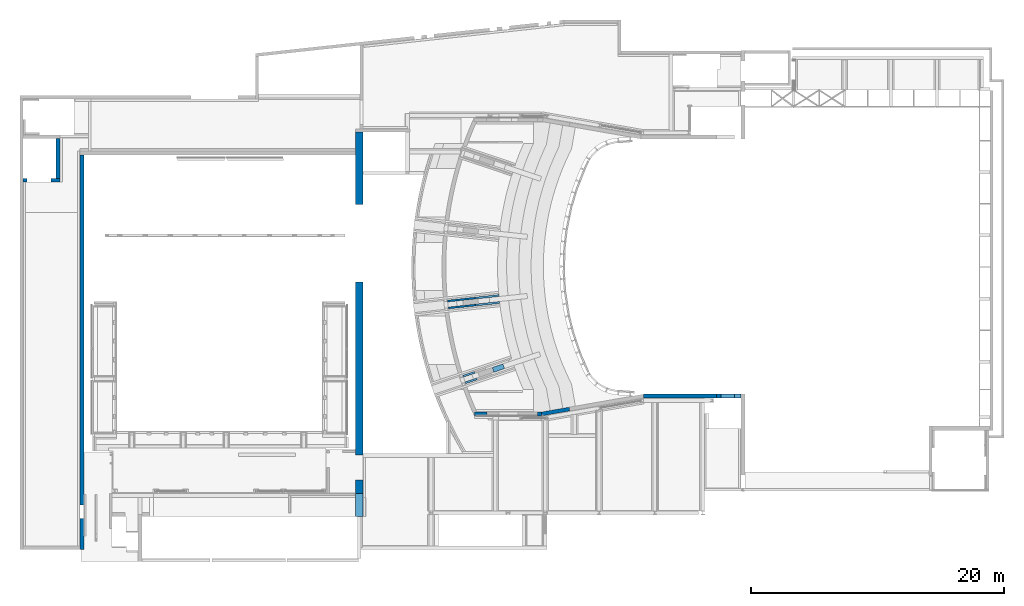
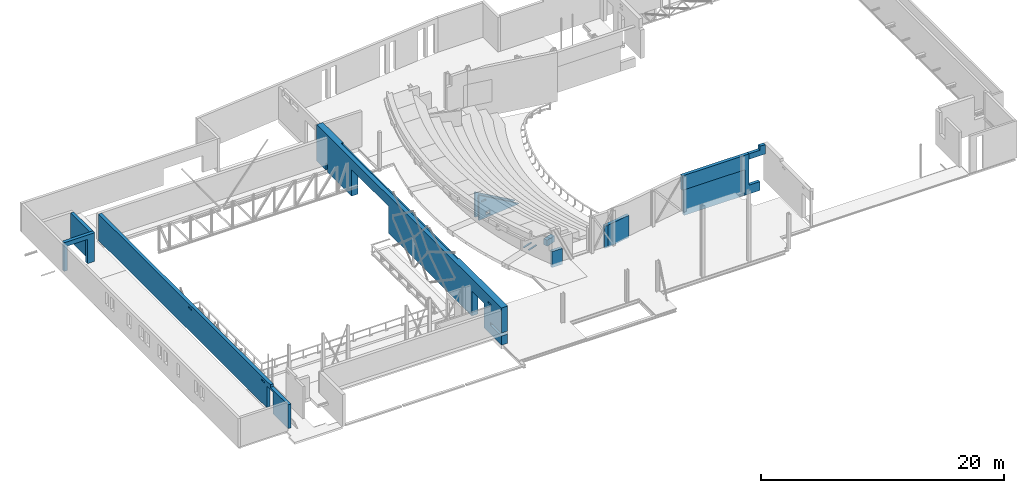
# One storey, part 51 of 68: 14 walls, 19 openings.
"""IFC2X3 building model written with IfcOpenShell, lengths in millimetres."""

from ifc_helpers import new_model, entity, si_unit, converted_unit, derived_unit, direction, frame, frame_2d, origin, place, context, subcontext, project, spatial, polyline, circle_curve, parameter, trimmed, segment, composite_curve, rectangle, outline, extrude, clip, halfspace, bounded_halfspace, material, layer, layer_set, layer_usage, type_object, element, save


model = new_model("IFC2X3")

# Units and contexts
model_context = context("Model", 3, precision=0.01, world=origin(), true_north=direction((6.12303176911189e-17, 1.0)))
body_context = subcontext(model_context, "Body", "Model", "MODEL_VIEW")
ifc_project = project(units=[si_unit("LENGTHUNIT", "METRE", prefix="MILLI"), si_unit("AREAUNIT", "SQUARE_METRE", prefix="MILLI"), si_unit("VOLUMEUNIT", "CUBIC_METRE"), converted_unit("PLANEANGLEUNIT", "DEGREE", entity("IfcRatioMeasure", 0.0174532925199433), si_unit("PLANEANGLEUNIT", "RADIAN"), dimensions=[0, 0, 0, 0, 0, 0, 0]), si_unit("MASSUNIT", "GRAM", prefix="KILO"), derived_unit("MASSDENSITYUNIT", [(si_unit("MASSUNIT", "GRAM", prefix="KILO"), 1), (si_unit("LENGTHUNIT", "METRE"), -3)]), derived_unit("MOMENTOFINERTIAUNIT", [(si_unit("LENGTHUNIT", "METRE"), 4)]), si_unit("TIMEUNIT", "SECOND"), si_unit("FREQUENCYUNIT", "HERTZ"), si_unit("THERMODYNAMICTEMPERATUREUNIT", "DEGREE_CELSIUS"), derived_unit("THERMALTRANSMITTANCEUNIT", [(si_unit("MASSUNIT", "GRAM", prefix="KILO"), 1), (si_unit("THERMODYNAMICTEMPERATUREUNIT", "KELVIN"), -1), (si_unit("TIMEUNIT", "SECOND"), -3)]), derived_unit("VOLUMETRICFLOWRATEUNIT", [(si_unit("LENGTHUNIT", "METRE"), 3), (si_unit("TIMEUNIT", "SECOND"), -1)]), si_unit("ELECTRICCURRENTUNIT", "AMPERE"), si_unit("ELECTRICVOLTAGEUNIT", "VOLT"), si_unit("POWERUNIT", "WATT"), si_unit("FORCEUNIT", "NEWTON", prefix="KILO"), si_unit("ILLUMINANCEUNIT", "LUX"), si_unit("LUMINOUSFLUXUNIT", "LUMEN"), si_unit("LUMINOUSINTENSITYUNIT", "CANDELA"), derived_unit("USERDEFINED", [(si_unit("MASSUNIT", "GRAM", prefix="KILO"), -1), (si_unit("LENGTHUNIT", "METRE"), -2), (si_unit("TIMEUNIT", "SECOND"), 3), (si_unit("LUMINOUSFLUXUNIT", "LUMEN"), 1)]), derived_unit("LINEARVELOCITYUNIT", [(si_unit("LENGTHUNIT", "METRE"), 1), (si_unit("TIMEUNIT", "SECOND"), -1)]), si_unit("PRESSUREUNIT", "PASCAL"), derived_unit("USERDEFINED", [(si_unit("LENGTHUNIT", "METRE"), -2), (si_unit("MASSUNIT", "GRAM", prefix="KILO"), 1), (si_unit("TIMEUNIT", "SECOND"), -2)]), derived_unit("LINEARFORCEUNIT", [(si_unit("MASSUNIT", "GRAM", prefix="KILO"), 1), (si_unit("LENGTHUNIT", "METRE"), 1), (si_unit("TIMEUNIT", "SECOND"), -2), (si_unit("LENGTHUNIT", "METRE"), -1)]), derived_unit("PLANARFORCEUNIT", [(si_unit("MASSUNIT", "GRAM", prefix="KILO"), 1), (si_unit("LENGTHUNIT", "METRE"), 1), (si_unit("TIMEUNIT", "SECOND"), -2), (si_unit("LENGTHUNIT", "METRE"), -2)])], contexts=[model_context])

# Site, building, storey
site_placement = place(None, origin())
site = spatial("IfcSite", under=ifc_project, at=site_placement, Name="Theater aan de Parade", CompositionType="ELEMENT")
building_placement = place(site_placement, origin())
building = spatial("IfcBuilding", under=site, at=building_placement, Name="Theater aan de Parade", CompositionType="ELEMENT")
storey_placement = place(building_placement, frame((0.0, 0.0, 8750.0)))
storey = spatial("IfcBuildingStorey", under=building, at=storey_placement, Name="02 tweede verdieping", CompositionType="ELEMENT", Elevation=8750.0)

# Wall, openings
ifc_material_1 = material(Name="00_PBT_MAT_beton t.p.g.")
ifc_layer_1 = layer(ifc_material_1, 300.0)
ifc_layer_set_1 = layer_set([ifc_layer_1], Name="Basic Wall:28_PBT_WA_beton t.p.g._d=300_bestaand")
ifc_layer_usage_1 = layer_usage(ifc_layer_set_1, "AXIS2", "POSITIVE", -150.0)
wall_type_1 = type_object("IfcWallType", Name="Basic Wall:28_PBT_WA_beton t.p.g._d=300_bestaand", PredefinedType="STANDARD", material=ifc_layer_set_1)
wall_1_placement = place(storey_placement, frame((59470.0, 22190.0, -700.0)))
wall_1 = element("IfcWallStandardCase", 1, at=wall_1_placement, inside=storey, type_object=wall_type_1, material=ifc_layer_usage_1, Name="Basic Wall:28_PBT_WA_beton t.p.g._d=300_bestaand", ObjectType="Basic Wall:28_PBT_WA_beton t.p.g._d=300_bestaand", context=body_context, shape_type="SweptSolid", body=[
    extrude(rectangle(XDim=7386.256100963, YDim=300.000000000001, at=frame_2d((3693.1280504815, 0.0), x_axis=(-1.0, 0.0))), origin(), (0.0, 0.0, 1.0), 4030.0),
])
opening_1_placement = place(wall_1_placement, origin())
element("IfcOpeningElement", 2, at=opening_1_placement, cuts=wall_1, Name="Basic Wall:28_PBT_WA_beton t.p.g._d=300_bestaand", ObjectType="Opening", context=body_context, shape_type="SweptSolid", body=[
    extrude(rectangle(XDim=3149.99999999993, YDim=1050.196578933, at=frame_2d((-4.54747350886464e-13, 0.0), x_axis=(1.0, 0.0))), frame((6861.1578114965, 150.0, 2455.0), z_axis=(0.0, -1.0, 0.0), x_axis=(0.0, 0.0, -1.0)), (0.0, 0.0, 1.0), 300.0),
])
opening_2_placement = place(wall_1_placement, origin())
element("IfcOpeningElement", 3, at=opening_2_placement, cuts=wall_1, Name="Basic Wall:28_PBT_WA_beton t.p.g._d=300_bestaand", ObjectType="Opening", context=body_context, shape_type="SweptSolid", body=[
    extrude(rectangle(XDim=2580.0, YDim=5950.00000000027, at=frame_2d((1.13686837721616e-12, 4.32009983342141e-12), x_axis=(1.0, 0.0))), frame((2975.0, 150.0, 1290.0), z_axis=(0.0, -1.0, 0.0), x_axis=(0.0, 0.0, 1.0)), (0.0, 0.0, 1.0), 300.0),
])

# Wall, opening
ifc_material_2 = material(Name="00_PBT_MAT_beton t.p.g._C30/37")
ifc_layer_2 = layer(ifc_material_2, 300.0)
ifc_layer_set_2 = layer_set([ifc_layer_2], Name="Basic Wall:28_PBT_WA_beton t.p.g._d=300_C30/37")
ifc_layer_usage_2 = layer_usage(ifc_layer_set_2, "AXIS2", "NEGATIVE", 150.0)
wall_type_2 = type_object("IfcWallType", Name="Basic Wall:28_PBT_WA_beton t.p.g._d=300_C30/37", PredefinedType="STANDARD", material=ifc_layer_set_2)
wall_2_placement = place(storey_placement, frame((13454.8570025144, 39270.0, 505.0), z_axis=(0.0, 0.0, 1.0), x_axis=(-1.0, 0.0, 0.0)))
wall_2 = element("IfcWallStandardCase", 4, at=wall_2_placement, inside=storey, type_object=wall_type_2, material=ifc_layer_usage_2, Name="Basic Wall:28_PBT_WA_beton t.p.g._d=300_C30/37", ObjectType="Basic Wall:28_PBT_WA_beton t.p.g._d=300_C30/37", context=body_context, shape_type="SweptSolid", body=[
    extrude(rectangle(XDim=2900.74444879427, YDim=300.000000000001, at=frame_2d((1450.37222439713, -6.11066752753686e-13), x_axis=(-1.0, 0.0))), origin(), (0.0, 0.0, 1.0), 2885.0),
])
opening_3_placement = place(wall_2_placement, origin())
element("IfcOpeningElement", 5, at=opening_3_placement, cuts=wall_2, Name="Basic Wall:28_PBT_WA_beton t.p.g._d=300_C30/37", ObjectType="Opening", context=body_context, shape_type="SweptSolid", body=[
    extrude(rectangle(XDim=2449.99999999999, YDim=1900.0, at=frame_2d((-5.6843418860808e-13, -1.08002495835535e-12), x_axis=(1.0, 0.0))), frame((1650.54436971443, -150.0, 1225.0), z_axis=(0.0, 1.0, 0.0), x_axis=(0.0, 0.0, -1.0)), (0.0, 0.0, 1.0), 300.000000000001),
])

# Wall
ifc_layer_usage_3 = layer_usage(ifc_layer_set_2, "AXIS2", "NEGATIVE", 150.0)
wall_3_placement = place(storey_placement, frame((13304.8570025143, 42570.0, 505.0), z_axis=(0.0, 0.0, 1.0), x_axis=(0.0, -1.0, 0.0)))
element("IfcWallStandardCase", 6, at=wall_3_placement, inside=storey, type_object=wall_type_2, material=ifc_layer_usage_3, Name="Basic Wall:28_PBT_WA_beton t.p.g._d=300_C30/37", ObjectType="Basic Wall:28_PBT_WA_beton t.p.g._d=300_C30/37", context=body_context, shape_type="SweptSolid", body=[
    extrude(rectangle(XDim=3150.00000002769, YDim=300.000000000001, at=frame_2d((1575.00000001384, 1.84741111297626e-13), x_axis=(-1.0, 0.0))), origin(), (0.0, 0.0, 1.0), 2885.0),
])

# Wall, openings
ifc_layer_usage_4 = layer_usage(ifc_layer_set_2, "AXIS2", "NEGATIVE", 150.0)
wall_4_placement = place(storey_placement, frame((15203.8570025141, 41273.308327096, 730.0), z_axis=(0.0, 0.0, 1.0), x_axis=(0.0, -1.0, 0.0)))
wall_4 = element("IfcWallStandardCase", 7, at=wall_4_placement, inside=storey, type_object=wall_type_2, material=ifc_layer_usage_4, Name="Basic Wall:28_PBT_WA_beton t.p.g._d=300_C30/37", ObjectType="Basic Wall:28_PBT_WA_beton t.p.g._d=300_C30/37", context=body_context, shape_type="Clipping", body=[
    clip(clip(extrude(rectangle(XDim=31203.9812524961, YDim=300.000000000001, at=frame_2d((15601.990626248, -6.25277607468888e-13), x_axis=(-1.0, 0.0))), origin(), (0.0, 0.0, 1.0), 2660.0), bounded_halfspace(frame((28304.0815573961, 150.0, 2400.0), z_axis=(0.0, 0.0, -1.0), x_axis=(-1.0, 0.0, 0.0)), True, frame((28304.0815573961, 150.0, 2400.0), z_axis=(0.0, 0.0, -1.0), x_axis=(-1.0, 0.0, 0.0)), polyline([(0.0, 0.0), (-2899.8996951, 0.0), (-2899.89969509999, -300.0), (-2649.89969509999, -300.0), (0.0, -300.0), (0.0, 0.0)]))), bounded_halfspace(frame((28304.0815573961, -150.0, 2400.0), z_axis=(-1.0, 0.0, 0.0), x_axis=(0.0, 0.0, 1.0)), True, frame((28304.0815573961, -150.0, 2400.0), z_axis=(-1.0, 0.0, 0.0), x_axis=(0.0, 0.0, 1.0)), polyline([(0.0, 0.0), (260.0, 0.0), (260.0, 300.0), (0.0, 300.0), (0.0, 0.0)]))),
])
opening_4_placement = place(wall_4_placement, origin())
element("IfcOpeningElement", 8, at=opening_4_placement, cuts=wall_4, Name="Basic Wall:28_PBT_WA_beton t.p.g._d=300_C30/37", ObjectType="Opening", context=body_context, shape_type="SweptSolid", body=[
    extrude(rectangle(XDim=2419.99999999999, YDim=1054.00000000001, at=frame_2d((5.6843418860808e-13, -1.08002495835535e-12), x_axis=(1.0, 0.0))), frame((28243.458158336, -150.0, 985.0), z_axis=(0.0, 1.0, 0.0), x_axis=(0.0, 0.0, -1.0)), (0.0, 0.0, 1.0), 300.000000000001),
])
opening_5_placement = place(wall_4_placement, origin())
element("IfcOpeningElement", 9, at=opening_5_placement, cuts=wall_4, Name="Basic Wall:28_PBT_WA_beton t.p.g._d=300_C30/37", ObjectType="Opening", context=body_context, shape_type="SweptSolid", body=[
    extrude(rectangle(XDim=149.999999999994, YDim=450.000000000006, at=frame_2d((-1.08002495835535e-12, 2.1600499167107e-12), x_axis=(1.0, 0.0))), frame((15081.8869708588, -150.0, 2300.0), z_axis=(0.0, 1.0, 0.0), x_axis=(0.0, 0.0, -1.0)), (0.0, 0.0, 1.0), 300.000000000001),
])
opening_6_placement = place(wall_4_placement, origin())
element("IfcOpeningElement", 10, at=opening_6_placement, cuts=wall_4, Name="Basic Wall:28_PBT_WA_beton t.p.g._d=300_C30/37", ObjectType="Opening", context=body_context, shape_type="SweptSolid", body=[
    extrude(rectangle(XDim=149.999999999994, YDim=450.000000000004, at=frame_2d((-1.08002495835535e-12, 1.08002495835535e-12), x_axis=(1.0, 0.0))), frame((27113.3083270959, -150.0, 2300.0), z_axis=(0.0, 1.0, 0.0), x_axis=(0.0, 0.0, -1.0)), (0.0, 0.0, 1.0), 300.000000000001),
])

# Walls
ifc_layer_usage_5 = layer_usage(ifc_layer_set_2, "AXIS2", "POSITIVE", -150.0)
wall_5_placement = place(storey_placement, frame((51275.0, 20780.0, -240.0)))
element("IfcWallStandardCase", 11, at=wall_5_placement, inside=storey, type_object=wall_type_2, material=ifc_layer_usage_5, Name="Basic Wall:28_PBT_WA_beton t.p.g._d=300_C30/37", ObjectType="Basic Wall:28_PBT_WA_beton t.p.g._d=300_C30/37", context=body_context, shape_type="SweptSolid", body=[
    extrude(rectangle(XDim=322.311735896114, YDim=300.000000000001, at=frame_2d((161.155867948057, 6.11066752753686e-13), x_axis=(-1.0, 0.0))), origin(), (0.0, 0.0, 1.0), 2240.00000000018),
])
ifc_layer_usage_6 = layer_usage(ifc_layer_set_2, "AXIS2", "POSITIVE", -150.0)
wall_6_placement = place(storey_placement, frame((51584.4807077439, 20777.7545700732, -240.0), z_axis=(0.0, 0.0, 1.0), x_axis=(0.985030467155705, 0.172380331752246, 0.0)))
element("IfcWallStandardCase", 12, at=wall_6_placement, inside=storey, type_object=wall_type_2, material=ifc_layer_usage_6, Name="Basic Wall:28_PBT_WA_beton t.p.g._d=300_C30/37", ObjectType="Basic Wall:28_PBT_WA_beton t.p.g._d=300_C30/37", context=body_context, shape_type="SweptSolid", body=[
    extrude(outline(polyline([(2248.82800393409, -150.0), (2248.82800393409, 150.0), (26.0520432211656, 150.0), (0.0, -150.0), (95.1036326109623, -150.0), (724.227870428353, -150.0), (2248.82800393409, -150.0)])), origin(), (0.0, 0.0, 1.0), 2240.0),
])
ifc_layer_usage_7 = layer_usage(ifc_layer_set_2, "AXIS2", "NEGATIVE", 150.0)
wall_7_placement = place(storey_placement, frame((59641.4285714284, 22190.0, -700.0)))
element("IfcWallStandardCase", 13, at=wall_7_placement, inside=storey, type_object=wall_type_2, material=ifc_layer_usage_7, Name="Basic Wall:28_PBT_WA_beton t.p.g._d=300_C30/37", ObjectType="Basic Wall:28_PBT_WA_beton t.p.g._d=300_C30/37", context=body_context, shape_type="SweptSolid", body=[
    extrude(rectangle(XDim=5778.57142857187, YDim=300.000000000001, at=frame_2d((2889.28571428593, 1.29318777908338e-12), x_axis=(-1.0, 0.0))), origin(), (0.0, 0.0, 1.0), 2580.0),
])
ifc_layer_usage_8 = layer_usage(ifc_layer_set_2, "AXIS2", "POSITIVE", -150.0)
wall_8_placement = place(storey_placement, frame((46271.5143189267, 20780.0, -410.0)))
element("IfcWallStandardCase", 14, at=wall_8_placement, inside=storey, type_object=wall_type_2, material=ifc_layer_usage_8, Name="Basic Wall:28_PBT_WA_beton t.p.g._d=300_C30/37", ObjectType="Basic Wall:28_PBT_WA_beton t.p.g._d=300_C30/37", context=body_context, shape_type="SweptSolid", body=[
    extrude(rectangle(XDim=996.960040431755, YDim=300.000000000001, at=frame_2d((498.480020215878, -1.08002495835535e-12), x_axis=(-1.0, 0.0))), origin(), (0.0, 0.0, 1.0), 1600.0),
])

# Wall, opening
ifc_layer_usage_9 = layer_usage(ifc_layer_set_2, "AXIS2", "NEGATIVE", 150.0)
wall_9_placement = place(storey_placement, frame((65806.05952203, 22190.0, 2780.0)))
wall_9 = element("IfcWallStandardCase", 15, at=wall_9_placement, inside=storey, type_object=wall_type_2, material=ifc_layer_usage_9, Name="Basic Wall:28_PBT_WA_beton t.p.g._d=300_C30/37", ObjectType="Basic Wall:28_PBT_WA_beton t.p.g._d=300_C30/37", context=body_context, shape_type="Clipping", body=[
    clip(extrude(rectangle(XDim=1550.19657893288, YDim=300.000000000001, at=frame_2d((775.09828946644, 6.53699316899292e-13), x_axis=(-1.0, 0.0))), origin(), (0.0, 0.0, 1.0), 949.999999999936), halfspace(frame((1550.19657893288, -150.0, 0.0), z_axis=(0.0, 0.0, -1.0), x_axis=(0.0, 1.0, 0.0)), False)),
])
opening_7_placement = place(wall_9_placement, origin())
element("IfcOpeningElement", 16, at=opening_7_placement, cuts=wall_9, Name="Basic Wall:28_PBT_WA_beton t.p.g._d=300_C30/37", ObjectType="Opening", context=body_context, shape_type="SweptSolid", body=[
    extrude(rectangle(XDim=400.000000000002, YDim=1050.196578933, at=frame_2d((0.0, 0.0), x_axis=(0.0, 1.0))), frame((525.098289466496, 150.0, 750.0), z_axis=(0.0, -1.0, 0.0), x_axis=(-1.0, 0.0, 0.0)), (0.0, 0.0, 1.0), 300.0),
])

# Wall, openings
ifc_layer_3 = layer(ifc_material_2, 600.0)
ifc_layer_set_3 = layer_set([ifc_layer_3], Name="Basic Wall:28_PBT_WA_beton t.p.g._d=600_C30/37")
ifc_layer_usage_10 = layer_usage(ifc_layer_set_3, "AXIS2", "NEGATIVE", 300.0)
wall_type_3 = type_object("IfcWallType", Name="Basic Wall:28_PBT_WA_beton t.p.g._d=600_C30/37", PredefinedType="STANDARD", material=ifc_layer_set_3)
wall_10_placement = place(storey_placement, frame((37153.8581300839, 43100.0, -80.0), z_axis=(0.0, 0.0, 1.0), x_axis=(0.0, -1.0, 0.0)))
wall_10 = element("IfcWallStandardCase", 17, at=wall_10_placement, inside=storey, type_object=wall_type_3, material=ifc_layer_usage_10, Name="Basic Wall:28_PBT_WA_beton t.p.g._d=600_C30/37", ObjectType="Basic Wall:28_PBT_WA_beton t.p.g._d=600_C30/37", context=body_context, shape_type="Clipping", body=[
    clip(clip(clip(extrude(rectangle(XDim=30430.7732302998, YDim=600.000000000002, at=frame_2d((15215.3866151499, 4.54747350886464e-13), x_axis=(-1.0, 0.0))), origin(), (0.0, 0.0, 1.0), 3730.0), bounded_halfspace(frame((28613.7093036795, -300.0, 915.0), z_axis=(-1.0, 0.0, 0.0), x_axis=(0.0, 0.0, 1.0)), True, frame((28613.7093036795, -300.0, 915.0), z_axis=(-1.0, 0.0, 0.0), x_axis=(0.0, 0.0, 1.0)), polyline([(0.0, 0.0), (300.0, 0.0), (300.0, 600.0), (0.0, 600.0), (0.0, 0.0)]))), bounded_halfspace(frame((1526.69167290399, -300.0, 80.0), z_axis=(0.0, 0.0, 1.0), x_axis=(0.0, 1.0, 0.0)), True, frame((1526.69167290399, -300.0, 80.0), z_axis=(0.0, 0.0, 1.0), x_axis=(0.0, 1.0, 0.0)), polyline([(0.0, 0.0), (600.0, 0.0), (600.0, 1526.69167290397), (0.0, 1526.69167290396), (0.0, 0.0)]))), bounded_halfspace(frame((1826.69167290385, 300.0, 810.0), z_axis=(0.0, 0.0, 1.0), x_axis=(-1.0, 0.0, 0.0)), True, frame((1826.69167290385, 300.0, 810.0), z_axis=(0.0, 0.0, 1.0), x_axis=(-1.0, 0.0, 0.0)), polyline([(0.0, 0.0), (300.0, 0.0), (300.0, 600.0), (0.0, 600.0), (0.0, 0.0)]))),
])
opening_8_placement = place(wall_10_placement, origin())
element("IfcOpeningElement", 18, at=opening_8_placement, cuts=wall_10, Name="Basic Wall:28_PBT_WA_beton t.p.g._d=600_C30/37", ObjectType="Opening", context=body_context, shape_type="SweptSolid", body=[
    extrude(rectangle(XDim=5179.99999999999, YDim=6134.0, at=frame_2d((0.0, -2.27373675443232e-12), x_axis=(1.0, 0.0))), frame((8806.68550220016, -300.0, 90.0), z_axis=(0.0, 1.0, 0.0), x_axis=(0.0, 0.0, -1.0)), (0.0, 0.0, 1.0), 600.000000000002),
])
opening_9_placement = place(wall_10_placement, origin())
element("IfcOpeningElement", 19, at=opening_9_placement, cuts=wall_10, Name="Basic Wall:28_PBT_WA_beton t.p.g._d=600_C30/37", ObjectType="Recess", context=body_context, shape_type="SweptSolid", body=[
    extrude(rectangle(XDim=204.999999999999, YDim=19155.0, at=frame_2d((2.72848410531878e-12, -1.08713038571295e-12), x_axis=(0.0, 1.0))), frame((12927.5000000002, 100.0, 3742.5), z_axis=(0.0, 1.0, 0.0), x_axis=(1.0, 0.0, 0.0)), (0.0, 0.0, 1.0), 200.000000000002),
])
opening_10_placement = place(wall_10_placement, origin())
element("IfcOpeningElement", 20, at=opening_10_placement, cuts=wall_10, Name="Basic Wall:28_PBT_WA_beton t.p.g._d=600_C30/37", ObjectType="Opening", context=body_context, shape_type="SweptSolid", body=[
    extrude(rectangle(XDim=2499.99999999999, YDim=1975.0, at=frame_2d((1.08002495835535e-12, -1.02318153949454e-12), x_axis=(0.0, 1.0))), frame((26555.6838939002, -300.0, 1250.0), z_axis=(0.0, 1.0, 0.0), x_axis=(1.0, 0.0, 0.0)), (0.0, 0.0, 1.0), 600.000000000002),
])
opening_11_placement = place(wall_10_placement, origin())
element("IfcOpeningElement", 21, at=opening_11_placement, cuts=wall_10, Name="Basic Wall:28_PBT_WA_beton t.p.g._d=600_C30/37", ObjectType="Opening", context=body_context, shape_type="SweptSolid", body=[
    extrude(rectangle(XDim=149.999999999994, YDim=450.000000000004, at=frame_2d((-1.08002495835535e-12, -1.08002495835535e-12), x_axis=(1.0, 0.0))), frame((28470.0, -300.0, 3022.2559997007), z_axis=(0.0, 1.0, 0.0), x_axis=(0.0, 0.0, -1.0)), (0.0, 0.0, 1.0), 600.000000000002),
])

# Wall
ifc_layer_4 = layer(ifc_material_2, 400.0)
ifc_layer_set_4 = layer_set([ifc_layer_4], Name="Basic Wall:28_PBT_WA_beton t.p.g._d=400_C30/37")
ifc_layer_usage_11 = layer_usage(ifc_layer_set_4, "AXIS2", "POSITIVE", -200.0)
wall_type_4 = type_object("IfcWallType", Name="Basic Wall:28_PBT_WA_beton t.p.g._d=400_C30/37", PredefinedType="STANDARD", material=ifc_layer_set_4)
wall_11_placement = place(storey_placement, frame((48591.8950360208, 24555.7149619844, -900.0), z_axis=(0.0, 0.0, 1.0), x_axis=(-0.948323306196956, -0.317305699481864, 0.0)))
element("IfcWallStandardCase", 22, at=wall_11_placement, inside=storey, type_object=wall_type_4, material=ifc_layer_usage_11, Name="Basic Wall:28_PBT_WA_beton t.p.g._d=400_C30/37", ObjectType="Basic Wall:28_PBT_WA_beton t.p.g._d=400_C30/37", context=body_context, shape_type="SweptSolid", body=[
    extrude(rectangle(XDim=900.000000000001, YDim=400.000000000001, at=frame_2d((450.0, 1.77635683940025e-12), x_axis=(-1.0, 0.0))), origin(), (0.0, 0.0, 1.0), 610.000000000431),
])

# Wall, openings
ifc_layer_5 = layer(ifc_material_2, 150.0)
ifc_layer_set_5 = layer_set([ifc_layer_5], Name="Basic Wall:28_PBT_WA_beton t.p.g._d=150_C30/37")
ifc_layer_usage_12 = layer_usage(ifc_layer_set_5, "AXIS2", "NEGATIVE", 75.0)
wall_type_5 = type_object("IfcWallType", Name="Basic Wall:28_PBT_WA_beton t.p.g._d=150_C30/37", PredefinedType="STANDARD", material=ifc_layer_set_5)
wall_12_placement = place(storey_placement, frame((48266.9723112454, 29603.6483295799, -80.0), z_axis=(0.0, 0.0, 1.0), x_axis=(-0.994276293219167, -0.106839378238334, 0.0)))
wall_12 = element("IfcWallStandardCase", 23, at=wall_12_placement, inside=storey, type_object=wall_type_5, material=ifc_layer_usage_12, Name="Basic Wall:28_PBT_WA_beton t.p.g._d=150_C30/37", ObjectType="Basic Wall:28_PBT_WA_beton t.p.g._d=150_C30/37", context=body_context, shape_type="Clipping", body=[
    clip(extrude(rectangle(XDim=4088.94035658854, YDim=149.999999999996, at=frame_2d((2044.47017829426, 2.23820961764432e-12), x_axis=(-1.0, 0.0))), origin(), (0.0, 0.0, 1.0), 2480.0), halfspace(frame((0.0, -75.0, 20.3552165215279), z_axis=(-0.524476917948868, 0.0, 0.851424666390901), x_axis=(0.0, 1.0, 0.0)), False)),
])
opening_12_placement = place(wall_12_placement, origin())
element("IfcOpeningElement", 24, at=opening_12_placement, cuts=wall_12, Name="Basic Wall:28_PBT_WA_beton t.p.g._d=150_C30/37", ObjectType="Opening", context=body_context, shape_type="SweptSolid", body=[
    extrude(rectangle(XDim=149.999999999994, YDim=450.000000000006, at=frame_2d((-1.08002495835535e-12, -2.27373675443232e-13), x_axis=(1.0, 0.0))), frame((3615.0, -75.0, 1830.0), z_axis=(0.0, 1.0, 0.0), x_axis=(0.0, 0.0, -1.0)), (0.0, 0.0, 1.0), 149.999999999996),
])
opening_13_placement = place(wall_12_placement, origin())
element("IfcOpeningElement", 25, at=opening_13_placement, cuts=wall_12, Name="Basic Wall:28_PBT_WA_beton t.p.g._d=150_C30/37", ObjectType="Opening", context=body_context, shape_type="SweptSolid", body=[
    extrude(rectangle(XDim=149.999999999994, YDim=450.000000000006, at=frame_2d((-2.27373675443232e-13, -1.08002495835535e-12), x_axis=(0.0, 1.0))), frame((3615.0, -625.0, 1830.0), z_axis=(0.0, 1.0, 0.0), x_axis=(1.0, 0.0, 0.0)), (0.0, 0.0, 1.0), 149.999999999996),
])
opening_14_placement = place(wall_12_placement, origin())
element("IfcOpeningElement", 26, at=opening_14_placement, cuts=wall_12, Name="Basic Wall:28_PBT_WA_beton t.p.g._d=150_C30/37", ObjectType="Opening", context=body_context, shape_type="SweptSolid", body=[
    extrude(rectangle(XDim=399.999999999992, YDim=400.000000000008, at=frame_2d((5.40012479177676e-13, 0.0), x_axis=(1.0, 0.0))), frame((3183.53557719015, -75.0, 430.0), z_axis=(0.0, 1.0, 0.0), x_axis=(0.0, 0.0, -1.0)), (0.0, 0.0, 1.0), 149.999999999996),
])
opening_15_placement = place(wall_12_placement, origin())
element("IfcOpeningElement", 27, at=opening_15_placement, cuts=wall_12, Name="Basic Wall:28_PBT_WA_beton t.p.g._d=150_C30/37", ObjectType="Opening", context=body_context, shape_type="SweptSolid", body=[
    extrude(rectangle(XDim=399.999999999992, YDim=400.000000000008, at=frame_2d((0.0, -5.40012479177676e-13), x_axis=(0.0, 1.0))), frame((3183.53557719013, -625.0, 430.0), z_axis=(0.0, 1.0, 0.0), x_axis=(1.0, 0.0, 0.0)), (0.0, 0.0, 1.0), 149.999999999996),
])

ifc_layer_usage_13 = layer_usage(ifc_layer_set_5, "AXIS2", "POSITIVE", -75.0)
wall_13_placement = place(storey_placement, frame((48208.9932134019, 30150.5843803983, -80.0), z_axis=(0.0, 0.0, 1.0), x_axis=(-0.994276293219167, -0.106839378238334, 0.0)))
wall_13 = element("IfcWallStandardCase", 28, at=wall_13_placement, inside=storey, type_object=wall_type_5, material=ifc_layer_usage_13, Name="Basic Wall:28_PBT_WA_beton t.p.g._d=150_C30/37", ObjectType="Basic Wall:28_PBT_WA_beton t.p.g._d=150_C30/37", context=body_context, shape_type="Clipping", body=[
    clip(extrude(rectangle(XDim=4089.56503896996, YDim=149.999999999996, at=frame_2d((2044.78251948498, -8.95283847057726e-13), x_axis=(-1.0, 0.0))), origin(), (0.0, 0.0, 1.0), 2480.0), halfspace(frame((0.0, -75.0, 19.8684138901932), z_axis=(-0.524477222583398, 0.0, 0.851424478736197), x_axis=(0.0, 1.0, 0.0)), False)),
])
opening_16_placement = place(wall_13_placement, origin())
element("IfcOpeningElement", 29, at=opening_16_placement, cuts=wall_13, Name="Basic Wall:28_PBT_WA_beton t.p.g._d=150_C30/37", ObjectType="Opening", context=body_context, shape_type="SweptSolid", body=[
    extrude(rectangle(XDim=149.999999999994, YDim=450.000000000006, at=frame_2d((-1.08002495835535e-12, -2.27373675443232e-13), x_axis=(1.0, 0.0))), frame((3615.78706511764, 475.0, 1830.0), z_axis=(0.0, 1.0, 0.0), x_axis=(0.0, 0.0, -1.0)), (0.0, 0.0, 1.0), 149.999999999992),
])
opening_17_placement = place(wall_13_placement, origin())
element("IfcOpeningElement", 30, at=opening_17_placement, cuts=wall_13, Name="Basic Wall:28_PBT_WA_beton t.p.g._d=150_C30/37", ObjectType="Opening", context=body_context, shape_type="SweptSolid", body=[
    extrude(rectangle(XDim=149.999999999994, YDim=450.000000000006, at=frame_2d((-2.27373675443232e-13, -1.08002495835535e-12), x_axis=(0.0, 1.0))), frame((3615.78706511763, -75.0, 1830.0), z_axis=(0.0, 1.0, 0.0), x_axis=(1.0, 0.0, 0.0)), (0.0, 0.0, 1.0), 149.999999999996),
])
opening_18_placement = place(wall_13_placement, origin())
element("IfcOpeningElement", 31, at=opening_18_placement, cuts=wall_13, Name="Basic Wall:28_PBT_WA_beton t.p.g._d=150_C30/37", ObjectType="Opening", context=body_context, shape_type="SweptSolid", body=[
    extrude(rectangle(XDim=399.999999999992, YDim=400.000000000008, at=frame_2d((0.0, -5.40012479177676e-13), x_axis=(0.0, 1.0))), frame((3184.3226423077, -75.0, 430.0), z_axis=(0.0, 1.0, 0.0), x_axis=(1.0, 0.0, 0.0)), (0.0, 0.0, 1.0), 149.999999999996),
])
opening_19_placement = place(wall_13_placement, origin())
element("IfcOpeningElement", 32, at=opening_19_placement, cuts=wall_13, Name="Basic Wall:28_PBT_WA_beton t.p.g._d=150_C30/37", ObjectType="Opening", context=body_context, shape_type="SweptSolid", body=[
    extrude(rectangle(XDim=399.999999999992, YDim=400.000000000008, at=frame_2d((5.40012479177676e-13, 0.0), x_axis=(1.0, 0.0))), frame((3184.32264230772, 475.0, 430.0), z_axis=(0.0, 1.0, 0.0), x_axis=(0.0, 0.0, -1.0)), (0.0, 0.0, 1.0), 149.999999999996),
])

# Wall
ifc_layer_6 = layer(ifc_material_2, 700.0)
ifc_layer_set_6 = layer_set([ifc_layer_6], Name="Basic Wall:28_PBT_WA_beton t.p.g._d=700_C30/37")
wall_type_6 = type_object("IfcWallType", Name="Basic Wall:28_PBT_WA_beton t.p.g._d=700_C30/37", PredefinedType="STANDARD", material=ifc_layer_set_6)
wall_14_placement = place(storey_placement, frame((46373.9732565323, 23813.6060029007, 0.0), z_axis=(0.0, 0.0, 1.0), x_axis=(-0.948323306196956, -0.317305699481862, 0.0)))
element("IfcWall", 33, at=wall_14_placement, inside=storey, type_object=wall_type_6, Name="Basic Wall:28_PBT_WA_beton t.p.g._d=700_C30/37", ObjectType="Basic Wall:28_PBT_WA_beton t.p.g._d=700_C30/37", context=body_context, shape_type="SweptSolid", body=[
    extrude(outline(composite_curve([segment(trimmed(circle_curve(frame_2d((5.07310736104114, 27770.1163326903), x_axis=(0.307261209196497, 0.951625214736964)), 28250.0), [parameter(197.742134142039)], [parameter(198.046376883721)], True, "PARAMETER"), True, "CONTINUOUS"), segment(polyline([(80.0772998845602, -479.78409848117), (69.922700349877, 480.577083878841)]), True, "CONTINUOUS"), segment(polyline([(69.922700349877, 480.577083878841), (-80.0689150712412, 478.991113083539)]), True, "CONTINUOUS"), segment(polyline([(-80.0689150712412, 478.991113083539), (-69.9310851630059, -479.784098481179)]), True, "CONTINUOUS")], self_intersect=False)), frame((479.810918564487, -275.0, 0.0), z_axis=(0.0, 0.0, 1.0), x_axis=(0.0105731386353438, 0.999944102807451, 0.0)), (0.0, 0.0, 1.0), 59.9999999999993),
    extrude(outline(composite_curve([segment(polyline([(-87.500080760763, -640.088582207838), (62.4999192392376, -640.08858220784)]), True, "CONTINUOUS"), segment(polyline([(62.4999192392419, -640.088582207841), (62.4999192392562, 320.094074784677)]), True, "CONTINUOUS"), segment(polyline([(62.4999192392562, 320.094074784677), (62.4999192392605, 320.661728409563)]), True, "CONTINUOUS"), segment(trimmed(circle_curve(frame_2d((238.809805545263, -27928.7880861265), x_axis=(-0.317305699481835, -0.948323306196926)), 28250.0), [parameter(198.857651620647)], [parameter(199.009767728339)], True, "PARAMETER"), True, "CONTINUOUS"), segment(trimmed(circle_curve(frame_2d((238.809805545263, -27928.7880861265), x_axis=(-0.317305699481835, -0.948323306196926)), 28250.0), [parameter(199.009767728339)], [parameter(199.161889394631)], True, "PARAMETER"), True, "CONTINUOUS"), segment(polyline([(-87.5000807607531, 319.327282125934), (-87.500080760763, -640.088582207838)]), True, "CONTINUOUS")], self_intersect=False)), frame((640.08858220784, 262.499919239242, 0.0), z_axis=(0.0, 0.0, 1.0), x_axis=(0.0, -1.0, 0.0)), (0.0, 0.0, 1.0), 59.9999999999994),
])

save(model, "model.ifc")
